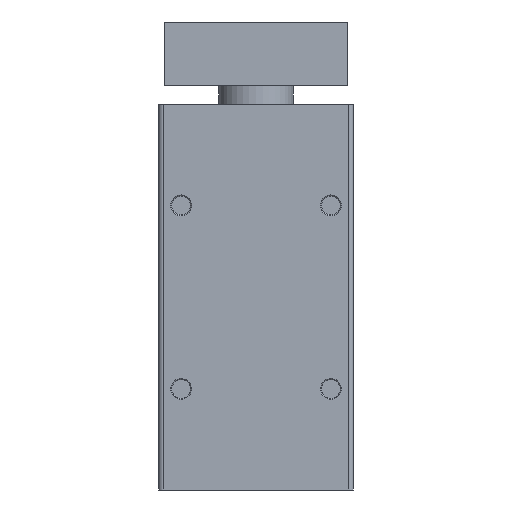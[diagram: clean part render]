
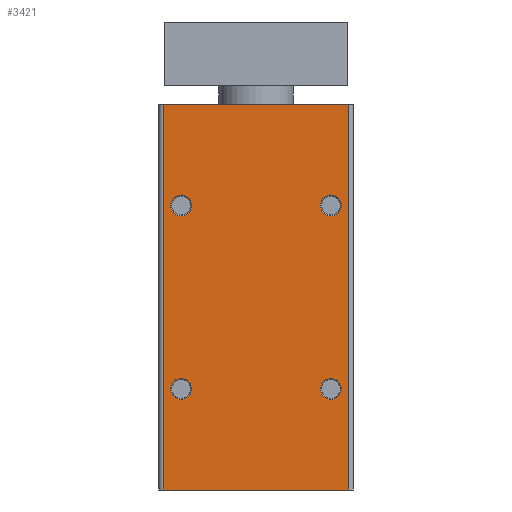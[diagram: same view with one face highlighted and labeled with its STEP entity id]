
A CAD part, front view. The second image highlights one B-rep face of the part: STEP entity #3421.
In plain terms, the highlighted planar face has unit normal (0, -1, 0).
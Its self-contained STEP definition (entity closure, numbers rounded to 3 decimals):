
#564=CARTESIAN_POINT('',(24.8,-62.,-108.0));
#565=VERTEX_POINT('',#564);
#573=CARTESIAN_POINT('',(-24.8,-62.,-108.0));
#574=VERTEX_POINT('',#573);
#575=CARTESIAN_POINT('',(-24.8,-62.,-108.0));
#576=DIRECTION('',(1.0,0.0,0.0));
#577=VECTOR('',#576,49.6);
#578=LINE('',#575,#577);
#579=EDGE_CURVE('',#574,#565,#578,.T.);
#2508=CARTESIAN_POINT('',(-24.8,-62.,-5.0));
#2509=VERTEX_POINT('',#2508);
#2517=CARTESIAN_POINT('',(24.8,-62.,-5.0));
#2518=VERTEX_POINT('',#2517);
#2519=CARTESIAN_POINT('',(24.8,-62.,-5.0));
#2520=DIRECTION('',(-1.0,0.0,0.0));
#2521=VECTOR('',#2520,49.6);
#2522=LINE('',#2519,#2521);
#2523=EDGE_CURVE('',#2518,#2509,#2522,.T.);
#3352=CARTESIAN_POINT('',(-17.2,-62.,-32.0));
#3353=VERTEX_POINT('',#3352);
#3354=CARTESIAN_POINT('',(-20.,-62.,-32.0));
#3355=DIRECTION('',(0.0,-1.0,0.0));
#3356=DIRECTION('',(-1.0,0.0,0.0));
#3357=AXIS2_PLACEMENT_3D('',#3354,#3355,#3356);
#3358=CIRCLE('',#3357,2.8);
#3359=EDGE_CURVE('',#3353,#3353,#3358,.T.);
#3364=CARTESIAN_POINT('',(-24.8,-62.,-5.0));
#3365=DIRECTION('',(0.0,-1.0,0.0));
#3366=DIRECTION('',(0.0,0.0,-1.0));
#3367=AXIS2_PLACEMENT_3D('',#3364,#3365,#3366);
#3368=PLANE('',#3367);
#3369=ORIENTED_EDGE('',*,*,#579,.T.);
#3370=CARTESIAN_POINT('',(24.8,-62.,-5.0));
#3371=DIRECTION('',(0.0,0.0,-1.0));
#3372=VECTOR('',#3371,103.0);
#3373=LINE('',#3370,#3372);
#3374=EDGE_CURVE('',#2518,#565,#3373,.T.);
#3375=ORIENTED_EDGE('',*,*,#3374,.F.);
#3376=ORIENTED_EDGE('',*,*,#2523,.T.);
#3377=CARTESIAN_POINT('',(-24.8,-62.,-5.0));
#3378=DIRECTION('',(0.0,0.0,-1.0));
#3379=VECTOR('',#3378,103.0);
#3380=LINE('',#3377,#3379);
#3381=EDGE_CURVE('',#2509,#574,#3380,.T.);
#3382=ORIENTED_EDGE('',*,*,#3381,.T.);
#3383=EDGE_LOOP('',(#3369,#3375,#3376,#3382));
#3384=FACE_OUTER_BOUND('',#3383,.T.);
#3385=CARTESIAN_POINT('',(-17.2,-62.,-81.0));
#3386=VERTEX_POINT('',#3385);
#3387=CARTESIAN_POINT('',(-20.,-62.,-81.0));
#3388=DIRECTION('',(0.0,-1.0,0.0));
#3389=DIRECTION('',(-1.0,0.0,0.0));
#3390=AXIS2_PLACEMENT_3D('',#3387,#3388,#3389);
#3391=CIRCLE('',#3390,2.8);
#3392=EDGE_CURVE('',#3386,#3386,#3391,.T.);
#3393=ORIENTED_EDGE('',*,*,#3392,.F.);
#3394=EDGE_LOOP('',(#3393));
#3395=FACE_BOUND('',#3394,.T.);
#3396=CARTESIAN_POINT('',(22.8,-62.,-32.0));
#3397=VERTEX_POINT('',#3396);
#3398=CARTESIAN_POINT('',(20.,-62.,-32.0));
#3399=DIRECTION('',(0.0,-1.0,0.0));
#3400=DIRECTION('',(-1.0,0.0,0.0));
#3401=AXIS2_PLACEMENT_3D('',#3398,#3399,#3400);
#3402=CIRCLE('',#3401,2.8);
#3403=EDGE_CURVE('',#3397,#3397,#3402,.T.);
#3404=ORIENTED_EDGE('',*,*,#3403,.F.);
#3405=EDGE_LOOP('',(#3404));
#3406=FACE_BOUND('',#3405,.T.);
#3407=CARTESIAN_POINT('',(22.8,-62.,-81.0));
#3408=VERTEX_POINT('',#3407);
#3409=CARTESIAN_POINT('',(20.,-62.,-81.0));
#3410=DIRECTION('',(0.0,-1.0,0.0));
#3411=DIRECTION('',(-1.0,0.0,0.0));
#3412=AXIS2_PLACEMENT_3D('',#3409,#3410,#3411);
#3413=CIRCLE('',#3412,2.8);
#3414=EDGE_CURVE('',#3408,#3408,#3413,.T.);
#3415=ORIENTED_EDGE('',*,*,#3414,.F.);
#3416=EDGE_LOOP('',(#3415));
#3417=FACE_BOUND('',#3416,.T.);
#3418=ORIENTED_EDGE('',*,*,#3359,.F.);
#3419=EDGE_LOOP('',(#3418));
#3420=FACE_BOUND('',#3419,.T.);
#3421=ADVANCED_FACE('',(#3384,#3395,#3406,#3417,#3420),#3368,.T.);
